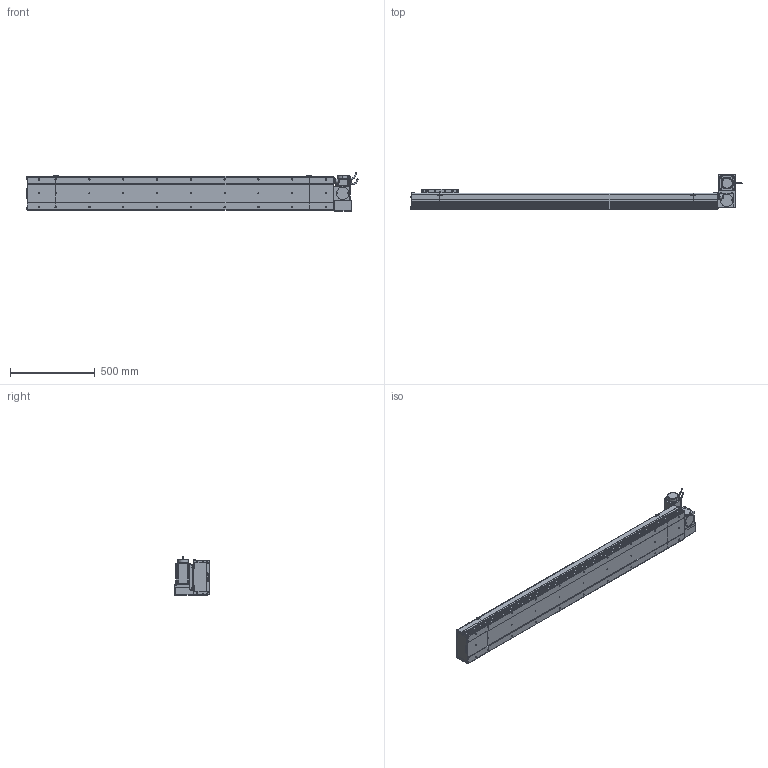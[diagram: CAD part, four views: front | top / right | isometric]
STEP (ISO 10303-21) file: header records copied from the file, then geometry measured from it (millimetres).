
FILE_DESCRIPTION (( 'STEP AP214' ), '1' );
FILE_NAME ('D20 CBH RT S1500.STEP', '2010-06-30T09:31:17', ( 'Conseil Régional Haute-Normandie' ), ( 'Conseil Régional Haute-Normandie' ), 'SwSTEP 2.0', 'SolidWorks 2010', '' );
FILE_SCHEMA (( 'AUTOMOTIVE_DESIGN' ));
Length unit declared in the file: millimetre
Products named in the file (31): avant 90BLDC125A-640; vis M5 L15_Default; Plaque De Serrage D20_Default; Plaque de Bout Tail D20_Default; Couvercle_Default; Corp Tail D20+100_Default; Tail D20+100_Default; Couvercle S1500_Default; Corp S1500_Default; Conecteur_Default; codeur 90BLDC125-640; corps 90BLDC125A-640; Chariot D20_Default; Corp D20 S1500_Default; Glissiere_Default; Support Chariot D20_Default; Conecteur2_Default; ecrou_Default; vis M5 L30_Default; Cache Support Moteur RT_Default; Rondelle Cache D20 RT_Default; vis M5 L47_Default; Head RT_Default; D20 CBH RT S1500; Plaque de Bout Head D20 RT_Default; Couvercle RT_Default; Corp Tail D20 RT_Default; Moteur motionking 90BLDC125A-640; Support moteur RT_Default; Plaque De Serrage D20 RT_Default
Assembly tree (68 placements, depth 4):
  D20 CBH RT S1500
    Corp D20 S1500_Default
      Couvercle S1500_Default
      Corp S1500_Default
    Tail D20+100_Default
      vis M5 L15_Default  x6
      Couvercle_Default
      Corp Tail D20+100_Default
      Plaque De Serrage D20_Default
      Plaque de Bout Tail D20_Default
    Head RT_Default
      vis M5 L47_Default  x4
      vis M5 L15_Default  x14
      Rondelle Cache D20 RT_Default  x3
      vis M5 L30_Default  x4
      ecrou_Default  x4
      Cache Support Moteur RT_Default
      Support moteur RT_Default
      Moteur motionking 90BLDC125A-640
        avant 90BLDC125A-640
        corps 90BLDC125A-640
        Conecteur2_Default
        codeur 90BLDC125-640
        Conecteur_Default
      Couvercle RT_Default
      Plaque De Serrage D20 RT_Default
      Corp Tail D20 RT_Default
      Plaque de Bout Head D20 RT_Default
    Chariot D20_Default
      vis M5 L15_Default  x8
      Support Chariot D20_Default
      Chariot D20_Default
      Glissiere_Default
Bounding box: 1964.45 x 206.5 x 229.7 mm (x, y, z)
Volume: 13765121.4 mm3; surface area: 2727237.7 mm2
Topology: 105 solids, 105 shells, 3802 faces, 9480 edges, 6154 vertices
Faces by surface type: plane 2125, bspline 806, cylinder 700, torus 95, cone 72, sphere 4
Entity records: 159110 total; most frequent: CARTESIAN_POINT 82268, ORIENTED_EDGE 15228, DIRECTION 11542, EDGE_CURVE 7614, VERTEX_POINT 5038, LINE 4942, VECTOR 4942, AXIS2_PLACEMENT_3D 3300
